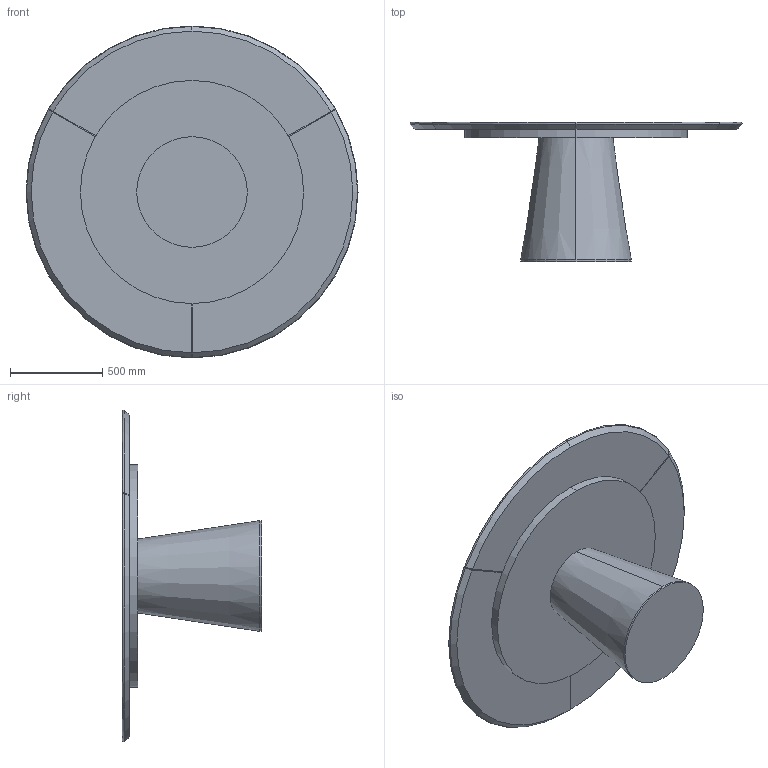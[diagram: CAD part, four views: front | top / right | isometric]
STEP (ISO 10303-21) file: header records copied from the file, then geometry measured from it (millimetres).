
FILE_DESCRIPTION (( 'STEP AP203' ), '1' );
FILE_NAME ('TO15L_TO16L_TEO_top wood_ceramic d180x76h.STEP', '2025-04-24T13:56:49', ( '' ), ( '' ), 'SwSTEP 2.0', 'SolidWorks 2022', '' );
FILE_SCHEMA (( 'CONFIG_CONTROL_DESIGN' ));
Length unit declared in the file: millimetre
Products named in the file (1): TO15L_TO16L_TEO_top wood_ceramic d180x76h
Bounding box: 1799.99 x 756 x 1799.98 mm (x, y, z)
Volume: 280889319 mm3; surface area: 9071049.2 mm2
Topology: 5 solids, 5 shells, 59 faces, 132 edges, 85 vertices
Faces by surface type: plane 33, cylinder 13, cone 6, torus 4, bspline 3
Entity records: 2157 total; most frequent: CARTESIAN_POINT 775, DIRECTION 269, ORIENTED_EDGE 264, EDGE_CURVE 132, AXIS2_PLACEMENT_3D 98, VERTEX_POINT 85, LINE 73, VECTOR 73
